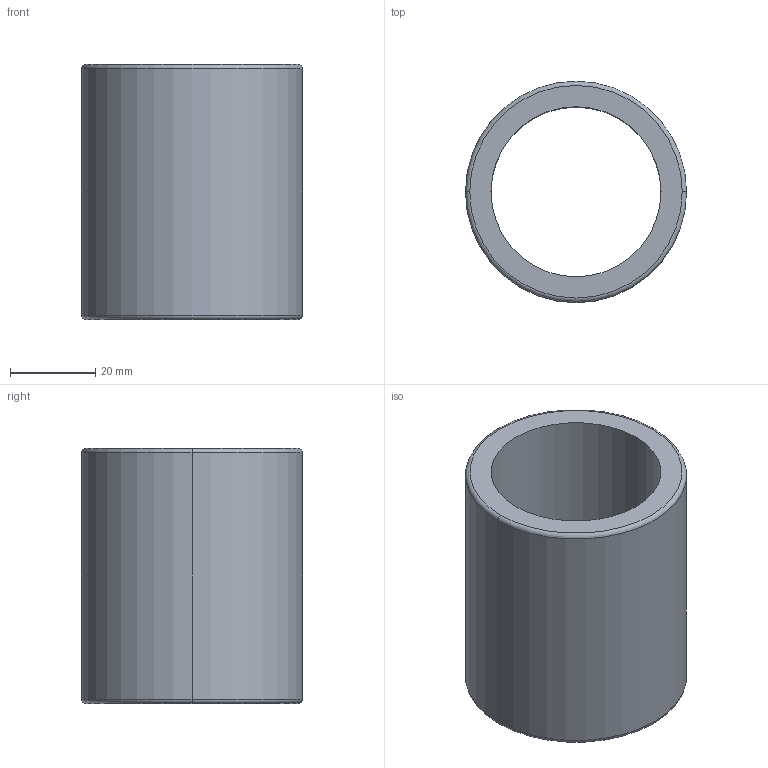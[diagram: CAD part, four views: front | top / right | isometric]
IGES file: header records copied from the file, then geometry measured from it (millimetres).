
Start section: 3D InterOp IGES (Version 21 0 1), Spatial Corp. Copyright (c) 1999-2007.
Global section: file name: CB-40.igs; native system: Spatial Corp.; preprocessor: 3D InterOp GENERIC/IGES 3.0; author: Noname; organization: Noname; date: 20220216.095905; units: millimetre
Bounding box: 52 x 52 x 60 mm (x, y, z)
Surface area: 18934.6 mm2 (no closed solid volume)
Topology: 0 solids, 0 shells, 10 faces, 40 edges, 40 vertices
Faces by surface type: revolution 8, extrusion 2
